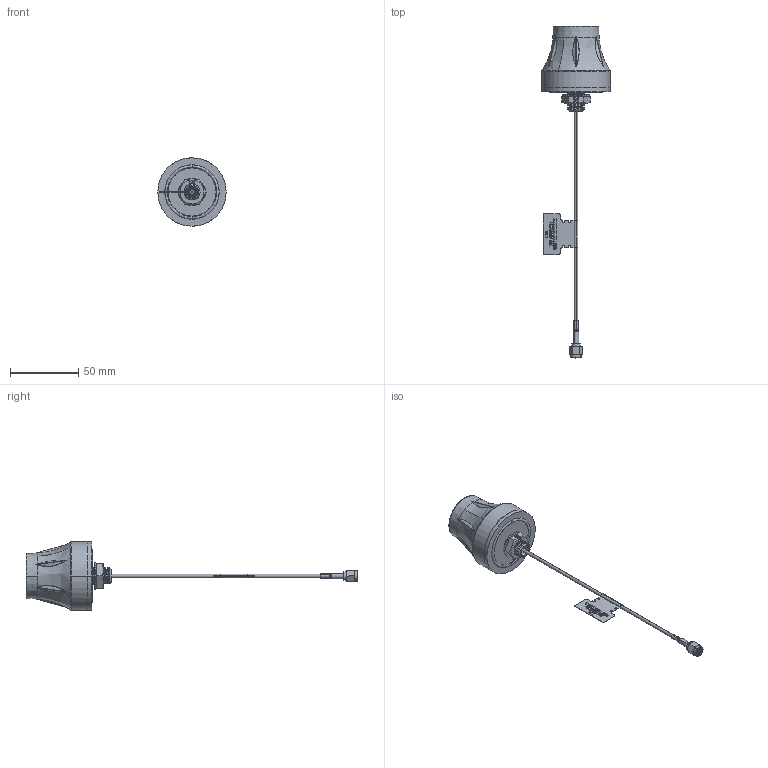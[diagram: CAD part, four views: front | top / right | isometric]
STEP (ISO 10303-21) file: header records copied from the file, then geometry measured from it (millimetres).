
FILE_DESCRIPTION (( 'STEP AP214' ), '1' );
FILE_NAME ('G30.B.108151.ha_Web.STEP', '2020-02-25T12:12:13', ( '' ), ( '' ), 'SwSTEP 2.0', 'SolidWorks 2017', '' );
FILE_SCHEMA (( 'AUTOMOTIVE_DESIGN' ));
Length unit declared in the file: millimetre
Products named in the file (9): 000417C000000A_G30C_Multi_Tooth_Washer_Ver02; 000717C000000A_G30C_O-Ring_Ver01; G30.B.108151.ha_Web; G30-TOP.prt; G30 Label; 001315C020000A (for Assy)_Black_RG174; STD RP-SMA(M)ST.Au_RP; RG316 Cable; 000417C010000A_G30C_Nut_Ver01
Assembly tree (8 placements, depth 2):
  G30.B.108151.ha_Web
    G30-TOP.prt
    000417C000000A_G30C_Multi_Tooth_Washer_Ver02
    000417C010000A_G30C_Nut_Ver01
    000717C000000A_G30C_O-Ring_Ver01
    RG316 Cable
    STD RP-SMA(M)ST.Au_RP
    G30 Label
    001315C020000A (for Assy)_Black_RG174
Bounding box: 50.09 x 243.2 x 50.09 mm (x, y, z)
Volume: 71351.9 mm3; surface area: 18705.4 mm2
Topology: 10 solids, 10 shells, 872 faces, 2257 edges, 1453 vertices
Faces by surface type: plane 377, bspline 290, cylinder 105, cone 88, torus 12
Entity records: 41935 total; most frequent: CARTESIAN_POINT 19199, ORIENTED_EDGE 4514, DIRECTION 3043, EDGE_CURVE 2257, VERTEX_POINT 1453, LINE 1205, VECTOR 1205, EDGE_LOOP 926
